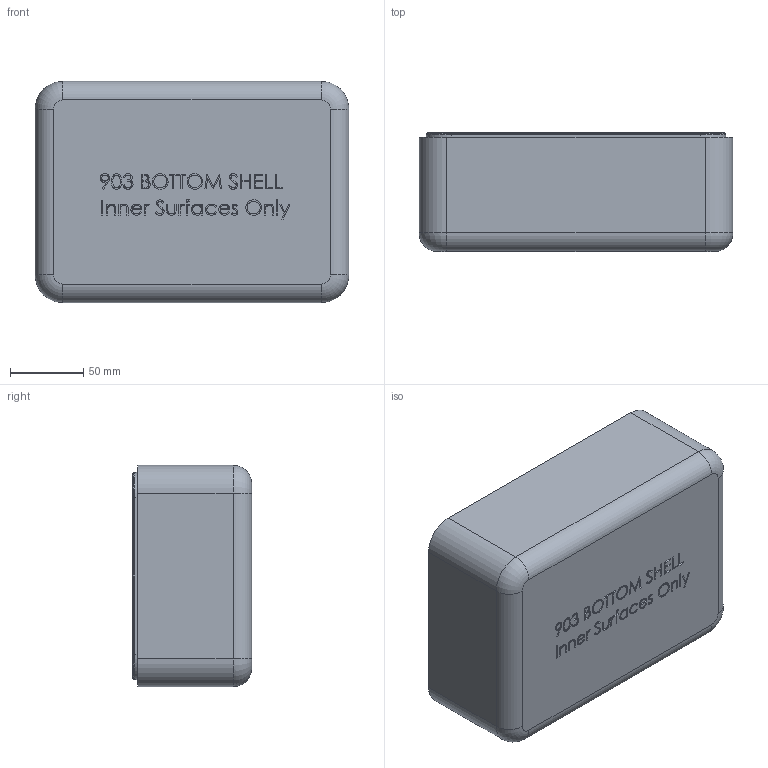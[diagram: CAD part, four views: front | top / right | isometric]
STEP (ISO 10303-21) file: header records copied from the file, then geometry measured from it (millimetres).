
FILE_DESCRIPTION (( 'STEP AP203' ), '1' );
FILE_NAME ('NANUK_903_Bottom_INNER SURFS.STEP', '2015-04-16T19:18:49', ( 'Ben laptop' ), ( 'Microsoft' ), 'SwSTEP 2.0', 'SolidWorks 2014', '' );
FILE_SCHEMA (( 'CONFIG_CONTROL_DESIGN' ));
Length unit declared in the file: inch
Products named in the file (1): NANUK_903_Bottom_INNER SURFS
Bounding box: 214.94 x 81.7 x 151.57 mm (x, y, z)
Volume: 924417.4 mm3; surface area: 163426.8 mm2
Topology: 1 solids, 1 shells, 840 faces, 2131 edges, 1338 vertices
Faces by surface type: bspline 361, plane 282, cylinder 131, torus 38, cone 24, sphere 4
Full cylindrical faces by diameter (mm): 2.381 x10, 12.7 x1
Entity records: 50446 total; most frequent: CARTESIAN_POINT 33012, ORIENTED_EDGE 4194, DIRECTION 2608, EDGE_CURVE 2097, VERTEX_POINT 1337, LINE 952, VECTOR 952, EDGE_LOOP 920
